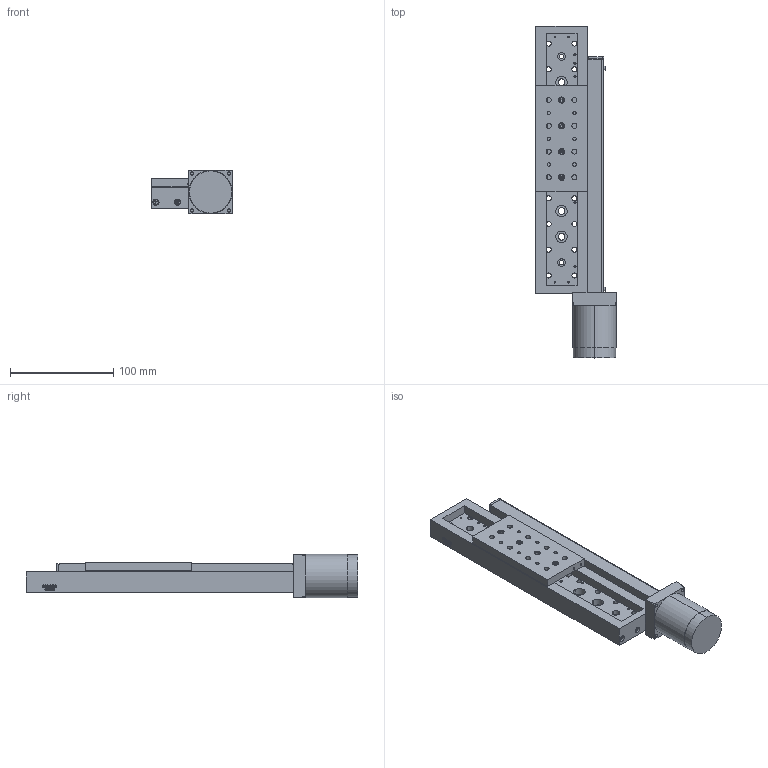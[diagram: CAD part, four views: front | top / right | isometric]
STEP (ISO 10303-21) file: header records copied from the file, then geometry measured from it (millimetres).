
FILE_DESCRIPTION (( 'STEP AP203' ), '1' );
FILE_NAME ('8MT175V-150-VSS42.STEP', '2012-01-23T12:12:58', ( 'Darius' ), ( '' ), 'SwSTEP 2.0', 'SolidWorks 2003240', '' );
FILE_SCHEMA (( 'CONFIG_CONTROL_DESIGN' ));
Length unit declared in the file: millimetre
Products named in the file (1): 8MT175V-150-VSS42
Bounding box: 78 x 322 x 42 mm (x, y, z)
Volume: 415762.3 mm3; surface area: 97982.6 mm2
Topology: 1 solids, 41 shells, 1389 faces, 3561 edges, 2279 vertices
Faces by surface type: plane 580, cylinder 485, bspline 190, cone 134
Entity records: 45917 total; most frequent: CARTESIAN_POINT 13294, ORIENTED_EDGE 6918, DIRECTION 6340, EDGE_CURVE 3459, AXIS2_PLACEMENT_3D 2347, VERTEX_POINT 2279, EDGE_LOOP 1692, VECTOR 1646
